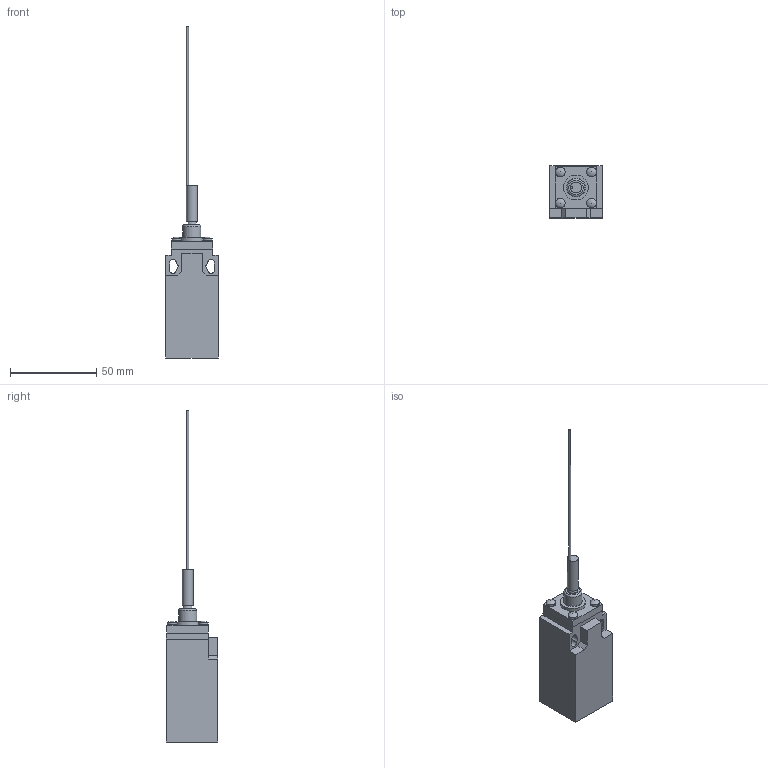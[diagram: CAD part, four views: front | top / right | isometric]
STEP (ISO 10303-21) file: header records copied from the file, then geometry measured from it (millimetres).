
FILE_DESCRIPTION((''),'2;1');
FILE_NAME('D:\Documenti_D\Corrispondenza\Comepi\Catalogo da fare\Modelli Nov 2011\AP\STEP\AP1-T91.iam.stp','2011-11-17T11:45:14',(''),(''),'Autodesk Inventor 2010','Autodesk Inventor 2010','');
FILE_SCHEMA(('AUTOMOTIVE_DESIGN { 1 0 10303 214 1 1 1 1 }'));
Length unit declared in the file: millimetre
Products named in the file (3): AP1-T91; AP1; T91.ipt
Assembly tree (2 placements, depth 2):
  AP1-T91
    AP1
    T91.ipt
Bounding box: 30.3 x 30 x 192 mm (x, y, z)
Volume: 53516.7 mm3; surface area: 14009.1 mm2
Topology: 2 solids, 2 shells, 65 faces, 155 edges, 99 vertices
Faces by surface type: plane 38, cylinder 15, torus 7, sphere 4, cone 1
Full cylindrical faces by diameter (mm): 1.2 x1, 5.6 x4, 6.3 x1, 10.5 x1, 14.325 x1, 20.4 x1
Entity records: 1826 total; most frequent: DIRECTION 308, CARTESIAN_POINT 293, ORIENTED_EDGE 258, EDGE_CURVE 129, AXIS2_PLACEMENT_3D 109, EDGE_LOOP 95, VERTEX_POINT 94, VECTOR 90
